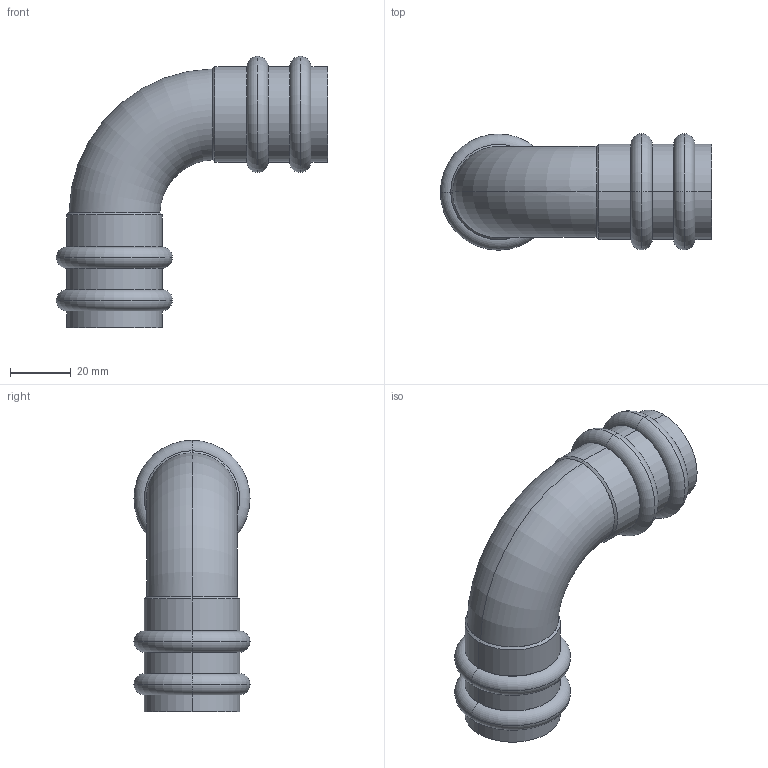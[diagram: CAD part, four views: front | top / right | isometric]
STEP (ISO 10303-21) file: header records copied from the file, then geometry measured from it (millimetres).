
FILE_DESCRIPTION(('starvars output'),'1');
FILE_NAME('cv20240422104931000011585.stp','10:49:32 2024/04/22',('Thomas Industrial Network Germany GmbH'),(' '),'Spatial InterOp 3D',' ',' ');
FILE_SCHEMA(('AUTOMOTIVE_DESIGN { 1 0 10303 214 3 1 1 }'));
Length unit declared in the file: millimetre
Products named in the file (1): 1
Bounding box: 89.05 x 38.1 x 89.05 mm (x, y, z)
Volume: 19509.7 mm3; surface area: 27059.5 mm2
Topology: 1 solids, 1 shells, 70 faces, 140 edges, 88 vertices
Faces by surface type: torus 28, cylinder 20, plane 18, cone 4
Entity records: 2760 total; most frequent: CARTESIAN_POINT 611, DIRECTION 390, ORIENTED_EDGE 280, AXIS2_PLACEMENT_3D 183, EDGE_CURVE 140, CIRCLE 112, EDGE_LOOP 88, VERTEX_POINT 88
